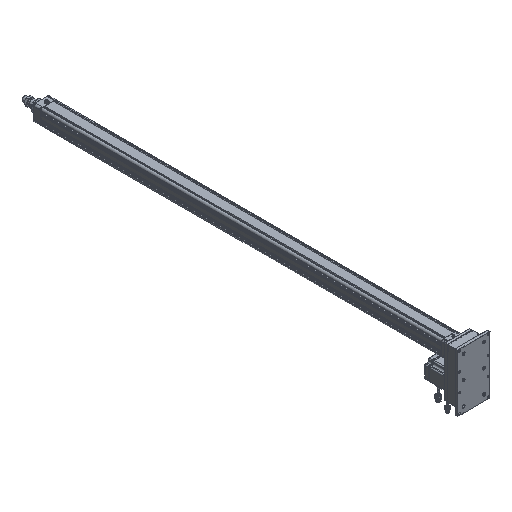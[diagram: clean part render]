
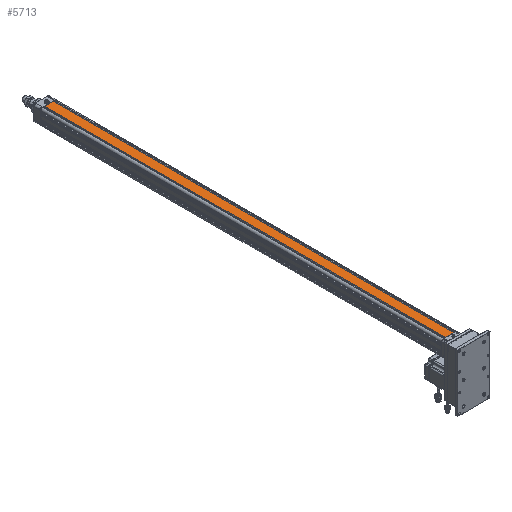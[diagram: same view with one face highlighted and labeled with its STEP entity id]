
A CAD part, isometric view. The second image highlights one B-rep face of the part: STEP entity #5713.
In plain terms, the highlighted planar face has unit normal (0, 0, 1).
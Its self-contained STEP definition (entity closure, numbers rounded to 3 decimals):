
#3172=DIRECTION('',(1.,0.,0.));
#3173=VECTOR('',#3172,34.);
#3174=CARTESIAN_POINT('',(-17.,-801.5,32.));
#3175=LINE('',#3174,#3173);
#3642=DIRECTION('',(1.,0.,0.));
#3643=VECTOR('',#3642,34.);
#3644=CARTESIAN_POINT('',(-17.,801.5,32.));
#3645=LINE('',#3644,#3643);
#3883=DIRECTION('',(0.,1.,0.));
#3884=VECTOR('',#3883,1603.);
#3885=CARTESIAN_POINT('',(17.,-801.5,32.));
#3886=LINE('',#3885,#3884);
#3887=DIRECTION('',(0.,1.,0.));
#3888=VECTOR('',#3887,1603.);
#3889=CARTESIAN_POINT('',(-17.,-801.5,32.));
#3890=LINE('',#3889,#3888);
#4599=CARTESIAN_POINT('',(17.,-801.5,32.));
#4600=VERTEX_POINT('',#4599);
#4601=CARTESIAN_POINT('',(-17.,-801.5,32.));
#4603=VERTEX_POINT('',#4601);
#4611=CARTESIAN_POINT('',(17.,801.5,32.));
#4612=VERTEX_POINT('',#4611);
#4613=CARTESIAN_POINT('',(-17.,801.5,32.));
#4615=VERTEX_POINT('',#4613);
#5700=CARTESIAN_POINT('',(-32.,-801.5,32.));
#5701=DIRECTION('',(0.,0.,1.));
#5702=DIRECTION('',(1.,0.,0.));
#5703=AXIS2_PLACEMENT_3D('',#5700,#5701,#5702);
#5704=PLANE('',#5703);
#5706=ORIENTED_EDGE('',*,*,#5705,.F.);
#5707=ORIENTED_EDGE('',*,*,#4970,.F.);
#5709=ORIENTED_EDGE('',*,*,#5708,.T.);
#5710=ORIENTED_EDGE('',*,*,#5331,.T.);
#5711=EDGE_LOOP('',(#5706,#5707,#5709,#5710));
#5712=FACE_OUTER_BOUND('',#5711,.F.);
#5713=ADVANCED_FACE('',(#5712),#5704,.T.);
#4970=EDGE_CURVE('',#4603,#4600,#3175,.T.);
#5331=EDGE_CURVE('',#4615,#4612,#3645,.T.);
#5705=EDGE_CURVE('',#4600,#4612,#3886,.T.);
#5708=EDGE_CURVE('',#4603,#4615,#3890,.T.);
